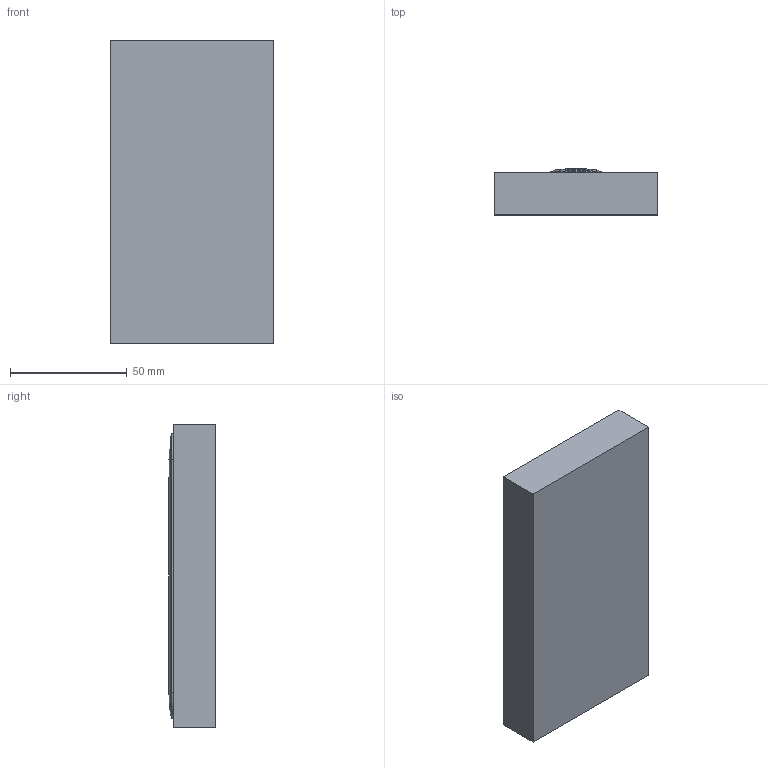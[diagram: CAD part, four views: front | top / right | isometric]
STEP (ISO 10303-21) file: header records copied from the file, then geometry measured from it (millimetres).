
FILE_DESCRIPTION(/* description */ (''),/* implementation_level */ '2;1');
FILE_NAME(/* name */ 'W:\R&D\pub\MOOV pliki\pliki 3ds\PA-GLAX-AL KPL.stp',/* time_stamp */ '2018-01-17T13:24:55+01:00',/* author */ ('tomaszw'),/* organization */ (''),/* preprocessor_version */ 'ST-DEVELOPER v16.1',/* originating_system */ 'Autodesk Inventor 2016',/* authorisation */ '');
FILE_SCHEMA (('CONFIG_CONTROL_DESIGN'));
Length unit declared in the file: millimetre
Products named in the file (5): płyta mała_wpuszczany; 40 - LED III-03; Cover for LED Rails-15; End Cap for LED Rails; PA-GLAX-AL KPL
Assembly tree (5 placements, depth 2):
  PA-GLAX-AL KPL
    płyta mała_wpuszczany
    40 - LED III-03
    Cover for LED Rails-15
    End Cap for LED Rails  x2
Bounding box: 70 x 19.92 x 130 mm (x, y, z)
Volume: 160949.8 mm3; surface area: 39185.4 mm2
Topology: 5 solids, 5 shells, 163 faces, 442 edges, 290 vertices
Faces by surface type: plane 85, cylinder 62, torus 10, sphere 2, bspline 2, cone 2
Entity records: 4178 total; most frequent: CARTESIAN_POINT 745, DIRECTION 728, ORIENTED_EDGE 682, EDGE_CURVE 341, AXIS2_PLACEMENT_3D 253, VERTEX_POINT 225, LINE 222, VECTOR 222
